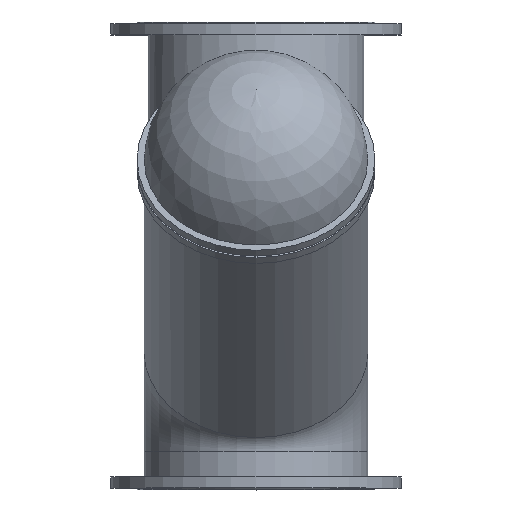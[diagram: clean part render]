
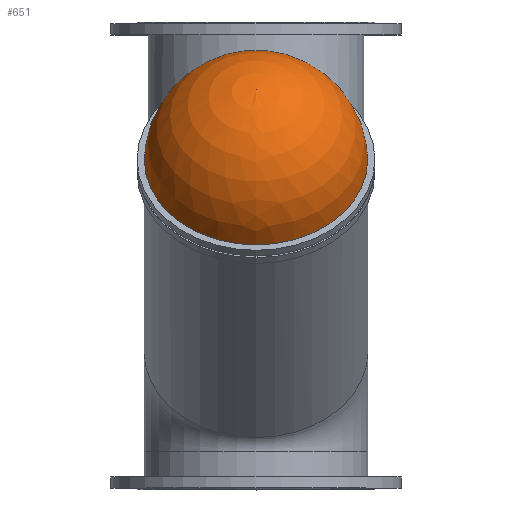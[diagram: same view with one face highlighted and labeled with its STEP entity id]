
A CAD part, top view. The second image highlights one B-rep face of the part: STEP entity #651.
In plain terms, the highlighted spherical face has radius 275.189 mm.
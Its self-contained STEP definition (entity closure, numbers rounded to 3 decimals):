
#651=ADVANCED_FACE('',(#1417),#1419,.T.);
#1417=FACE_OUTER_BOUND('',#1418,.T.);
#1418=EDGE_LOOP('',(#1665));
#1419=SPHERICAL_SURFACE('',#1420,275.189);
#1420=AXIS2_PLACEMENT_3D('',#1421,#1422,#1423);
#1421=CARTESIAN_POINT('',(0.,229.941,670.18));
#1422=DIRECTION('',(0.,0.643,0.766));
#1423=DIRECTION('',(0.,-0.766,0.643));
#1665=ORIENTED_EDGE('',*,*,#1786,.T.);
#1786=EDGE_CURVE('',#2023,#2023,#2024,.T.);
#2023=VERTEX_POINT('',#2977);
#2024=CIRCLE('',#2978,275.);
#2977=CARTESIAN_POINT('',(0.,25.828,854.751));
#2978=AXIS2_PLACEMENT_3D('',#2979,#2980,#2981);
#2979=CARTESIAN_POINT('',(0.,236.49,677.985));
#2980=DIRECTION('',(0.,0.643,0.766));
#2981=DIRECTION('',(0.,-0.766,0.643));
